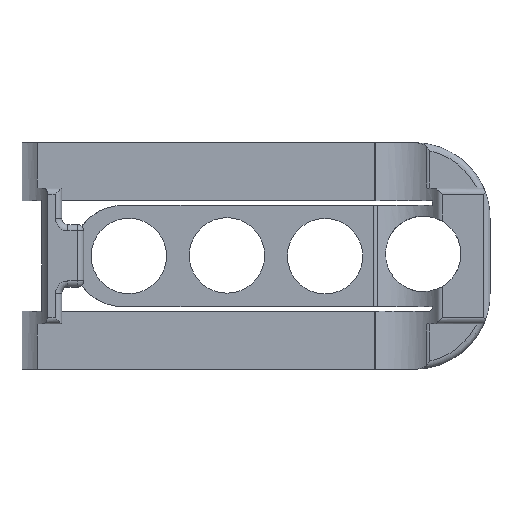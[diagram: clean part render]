
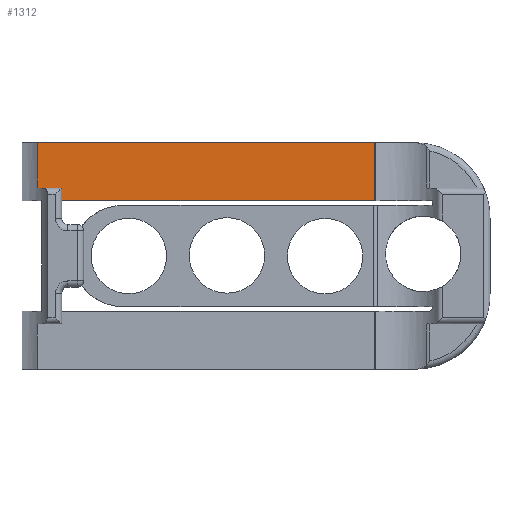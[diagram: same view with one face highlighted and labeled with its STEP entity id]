
A CAD part, top view. The second image highlights one B-rep face of the part: STEP entity #1312.
In plain terms, the highlighted planar face has unit normal (0, 0, 1).
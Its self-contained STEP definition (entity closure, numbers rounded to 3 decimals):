
#447=ORIENTED_EDGE('',*,*,#688,.T.);
#448=ORIENTED_EDGE('',*,*,#715,.T.);
#449=ORIENTED_EDGE('',*,*,#673,.T.);
#450=ORIENTED_EDGE('',*,*,#642,.F.);
#451=ORIENTED_EDGE('',*,*,#714,.T.);
#452=ORIENTED_EDGE('',*,*,#547,.T.);
#547=EDGE_CURVE('',#743,#744,#872,.T.);
#642=EDGE_CURVE('',#823,#824,#933,.T.);
#673=EDGE_CURVE('',#847,#824,#946,.T.);
#688=EDGE_CURVE('',#744,#853,#955,.T.);
#714=EDGE_CURVE('',#823,#743,#960,.T.);
#715=EDGE_CURVE('',#853,#847,#961,.T.);
#743=VERTEX_POINT('',#1882);
#744=VERTEX_POINT('',#1883);
#823=VERTEX_POINT('',#2102);
#824=VERTEX_POINT('',#2104);
#847=VERTEX_POINT('',#2185);
#853=VERTEX_POINT('',#2209);
#872=LINE('',#1881,#977);
#933=LINE('',#2103,#1038);
#946=LINE('',#2184,#1051);
#955=LINE('',#2210,#1060);
#960=LINE('',#2276,#1065);
#961=LINE('',#2278,#1066);
#977=VECTOR('',#1495,1000.);
#1038=VECTOR('',#1654,1000.);
#1051=VECTOR('',#1695,1000.);
#1060=VECTOR('',#1724,1000.);
#1065=VECTOR('',#1799,1000.);
#1066=VECTOR('',#1802,1000.);
#1135=EDGE_LOOP('',(#447,#448,#449,#450,#451,#452));
#1214=FACE_BOUND('',#1135,.T.);
#1257=PLANE('',#1455);
#1312=ADVANCED_FACE('',(#1214),#1257,.F.);
#1455=AXIS2_PLACEMENT_3D('',#2277,#1800,#1801);
#1495=DIRECTION('',(0.,-1.,0.));
#1654=DIRECTION('',(0.,1.,0.));
#1695=DIRECTION('',(-1.,0.,0.));
#1724=DIRECTION('',(1.,0.,0.));
#1799=DIRECTION('',(1.,0.,0.));
#1800=DIRECTION('',(0.,0.,-1.));
#1801=DIRECTION('',(-1.,0.,0.));
#1802=DIRECTION('',(0.,1.,0.));
#1881=CARTESIAN_POINT('',(-70.358,13.97,4.445));
#1882=CARTESIAN_POINT('',(-70.358,11.43,4.445));
#1883=CARTESIAN_POINT('',(-70.358,9.271,4.445));
#2102=CARTESIAN_POINT('',(-74.448,11.43,4.445));
#2103=CARTESIAN_POINT('',(-74.448,-31.75,4.445));
#2104=CARTESIAN_POINT('',(-74.448,19.05,4.445));
#2184=CARTESIAN_POINT('',(-86.36,19.05,4.445));
#2185=CARTESIAN_POINT('',(-17.637,19.05,4.445));
#2209=CARTESIAN_POINT('',(-17.637,9.271,4.445));
#2210=CARTESIAN_POINT('',(-70.358,9.271,4.445));
#2276=CARTESIAN_POINT('',(-80.359,11.43,4.445));
#2277=CARTESIAN_POINT('',(0.,0.,4.445));
#2278=CARTESIAN_POINT('',(-17.637,0.,4.445));
